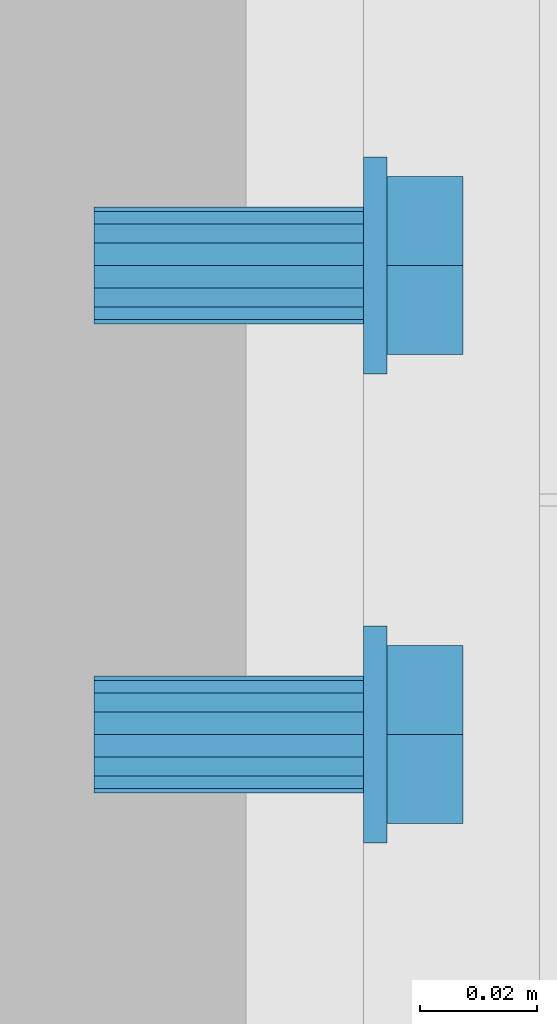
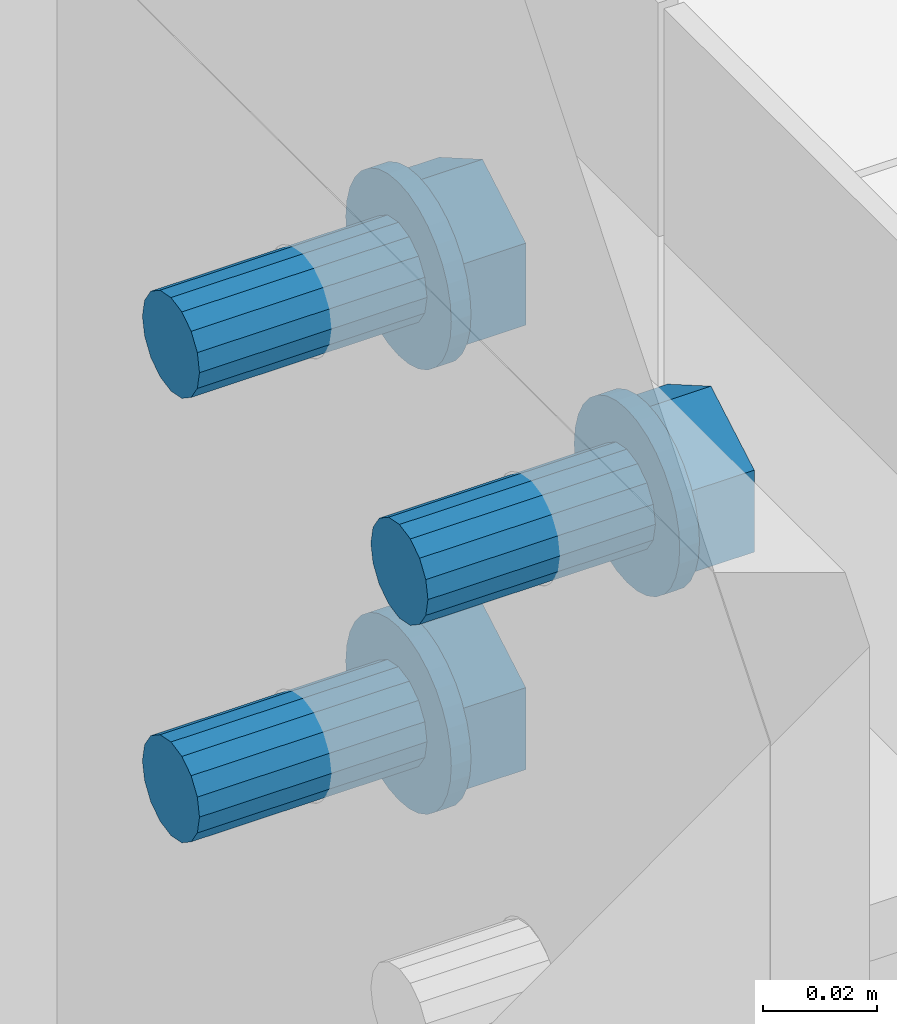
# One storey, part 311 of 410: 3 mechanical fasteners.
"""IFC2X3 building model written with IfcOpenShell, lengths in millimetres."""

from ifc_helpers import new_model, entity, si_unit, converted_unit, origin_with_axes, place, context, project, spatial, faceted_brep, element, save


model = new_model("IFC2X3")

# Units and contexts
model_context = context("Model", 3, precision=1e-09, world=origin_with_axes())
ifc_project = project(units=[si_unit("LENGTHUNIT", "METRE", prefix="MILLI"), si_unit("AREAUNIT", "SQUARE_METRE"), si_unit("VOLUMEUNIT", "CUBIC_METRE"), converted_unit("PLANEANGLEUNIT", "DEGREE", entity("IfcPlaneAngleMeasure", 0.01745329), si_unit("PLANEANGLEUNIT", "RADIAN"), dimensions=[0, 0, 0, 0, 0, 0, 0])], contexts=[model_context])

# Site, building, storey
site_placement = place(None, origin_with_axes())
site = spatial("IfcSite", under=ifc_project, at=site_placement, Name="mKR Teilneubau & Sanierung BA1 - Ostfildern", CompositionType="ELEMENT")
building_placement = place(site_placement, origin_with_axes())
building = spatial("IfcBuilding", under=site, at=building_placement, Name="Struktur 1", CompositionType="ELEMENT")
storey_placement = place(building_placement, origin_with_axes())
storey = spatial("IfcBuildingStorey", under=building, at=storey_placement, Name="Default Storey", CompositionType="ELEMENT", Elevation=0.0)

# Mechanical fasteners
mechanical_fastener_1_placement = place(None, origin_with_axes())
element("IfcMechanicalFastener", 1, at=mechanical_fastener_1_placement, inside=storey, ObjectType="-", NominalDiameter=20.0, NominalLength=50.0, context=model_context, shape_type="Brep", body=[
    faceted_brep([(1795.0, 16958.5, -2165.599999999), (1799.0, 16958.5, -2165.599999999), (1799.0, 16958.144527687, -2169.209170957), (1795.0, 16958.144527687, -2169.209170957), (1799.0, 16957.091771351, -2172.679643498), (1795.0, 16957.091771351, -2172.679643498), (1799.0, 16955.382187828, -2175.87804931), (1795.0, 16955.382187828, -2175.87804931), (1799.0, 16953.081475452, -2178.681475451), (1795.0, 16953.081475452, -2178.681475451), (1799.0, 16950.278049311, -2180.982187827), (1795.0, 16950.278049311, -2180.982187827), (1799.0, 16947.079643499, -2182.691771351), (1795.0, 16947.079643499, -2182.691771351), (1799.0, 16943.609170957, -2183.744527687), (1795.0, 16943.609170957, -2183.744527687), (1799.0, 16940.0, -2184.099999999), (1795.0, 16940.0, -2184.099999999), (1799.0, 16936.390829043, -2183.744527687), (1795.0, 16936.390829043, -2183.744527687), (1799.0, 16932.920356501, -2182.691771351), (1795.0, 16932.920356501, -2182.691771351), (1799.0, 16929.721950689, -2180.982187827), (1795.0, 16929.721950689, -2180.982187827), (1799.0, 16926.918524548, -2178.681475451), (1795.0, 16926.918524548, -2178.681475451), (1799.0, 16924.617812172, -2175.87804931), (1795.0, 16924.617812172, -2175.87804931), (1799.0, 16922.908228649, -2172.679643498), (1795.0, 16922.908228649, -2172.679643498), (1799.0, 16921.855472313, -2169.209170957), (1795.0, 16921.855472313, -2169.209170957), (1799.0, 16921.5, -2165.599999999), (1795.0, 16921.5, -2165.599999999), (1799.0, 16921.855472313, -2161.990829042), (1795.0, 16921.855472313, -2161.990829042), (1799.0, 16922.908228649, -2158.520356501), (1795.0, 16922.908228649, -2158.520356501), (1799.0, 16924.617812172, -2155.321950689), (1795.0, 16924.617812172, -2155.321950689), (1799.0, 16926.918524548, -2152.518524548), (1795.0, 16926.918524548, -2152.518524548), (1799.0, 16929.721950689, -2150.217812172), (1795.0, 16929.721950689, -2150.217812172), (1799.0, 16932.920356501, -2148.508228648), (1795.0, 16932.920356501, -2148.508228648), (1799.0, 16936.390829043, -2147.455472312), (1795.0, 16936.390829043, -2147.455472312), (1799.0, 16940.0, -2147.099999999), (1795.0, 16940.0, -2147.099999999), (1799.0, 16943.609170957, -2147.455472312), (1795.0, 16943.609170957, -2147.455472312), (1799.0, 16947.079643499, -2148.508228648), (1795.0, 16947.079643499, -2148.508228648), (1799.0, 16950.278049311, -2150.217812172), (1795.0, 16950.278049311, -2150.217812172), (1799.0, 16953.081475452, -2152.518524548), (1795.0, 16953.081475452, -2152.518524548), (1799.0, 16955.382187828, -2155.321950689), (1795.0, 16955.382187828, -2155.321950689), (1799.0, 16957.091771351, -2158.520356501), (1795.0, 16957.091771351, -2158.520356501), (1799.0, 16958.144527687, -2161.990829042), (1795.0, 16958.144527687, -2161.990829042)], [[[0, 1, 2, 3]], [[3, 2, 4, 5]], [[5, 4, 6, 7]], [[7, 6, 8, 9]], [[9, 8, 10, 11]], [[11, 10, 12, 13]], [[13, 12, 14, 15]], [[15, 14, 16, 17]], [[17, 16, 18, 19]], [[19, 18, 20, 21]], [[21, 20, 22, 23]], [[23, 22, 24, 25]], [[25, 24, 26, 27]], [[27, 26, 28, 29]], [[29, 28, 30, 31]], [[31, 30, 32, 33]], [[33, 32, 34, 35]], [[35, 34, 36, 37]], [[37, 36, 38, 39]], [[39, 38, 40, 41]], [[41, 40, 42, 43]], [[43, 42, 44, 45]], [[45, 44, 46, 47]], [[47, 46, 48, 49]], [[49, 48, 50, 51]], [[51, 50, 52, 53]], [[53, 52, 54, 55]], [[55, 54, 56, 57]], [[57, 56, 58, 59]], [[59, 58, 60, 61]], [[61, 60, 62, 63]], [[63, 62, 1, 0]], [[2, 1, 62, 60, 58, 56, 54, 52, 50, 48, 46, 44, 42, 40, 38, 36, 34, 32, 30, 28, 26, 24, 22, 20, 18, 16, 14, 12, 10, 8, 6, 4]], [[63, 0, 3, 5, 7, 9, 11, 13, 15, 17, 19, 21, 23, 25, 27, 29, 31, 33, 35, 37, 39, 41, 43, 45, 47, 49, 51, 53, 55, 57, 59, 61]]]),
    faceted_brep([(1812.0, 16924.831565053, -2174.357499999), (1799.0, 16924.831565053, -2174.357499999), (1799.0, 16940.0, -2183.114999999), (1812.0, 16940.0, -2183.114999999), (1799.0, 16955.168434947, -2174.357499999), (1812.0, 16955.168434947, -2174.357499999), (1799.0, 16955.168434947, -2156.842499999), (1812.0, 16955.168434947, -2156.842499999), (1799.0, 16940.0, -2148.084999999), (1812.0, 16940.0, -2148.084999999), (1799.0, 16924.831565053, -2156.842499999), (1812.0, 16924.831565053, -2156.842499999)], [[[0, 1, 2, 3]], [[3, 2, 4, 5]], [[5, 4, 6, 7]], [[7, 6, 8, 9]], [[9, 8, 10, 11]], [[11, 10, 1, 0]], [[3, 5, 7, 9, 11, 0]], [[2, 1, 10, 8, 6, 4]]]),
    faceted_brep([(1775.0, 16950.0, -2165.599999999), (1795.0, 16950.0, -2165.599999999), (1795.0, 16949.238795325, -2169.426834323), (1775.0, 16949.238795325, -2169.426834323), (1795.0, 16947.071067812, -2172.671067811), (1775.0, 16947.071067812, -2172.671067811), (1795.0, 16943.826834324, -2174.838795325), (1775.0, 16943.826834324, -2174.838795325), (1795.0, 16940.0, -2175.599999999), (1775.0, 16940.0, -2175.599999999), (1795.0, 16936.173165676, -2174.838795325), (1775.0, 16936.173165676, -2174.838795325), (1795.0, 16932.928932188, -2172.671067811), (1775.0, 16932.928932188, -2172.671067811), (1795.0, 16930.761204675, -2169.426834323), (1775.0, 16930.761204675, -2169.426834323), (1795.0, 16930.0, -2165.599999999), (1775.0, 16930.0, -2165.599999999), (1795.0, 16930.761204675, -2161.773165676), (1775.0, 16930.761204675, -2161.773165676), (1795.0, 16932.928932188, -2158.528932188), (1775.0, 16932.928932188, -2158.528932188), (1795.0, 16936.173165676, -2156.361204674), (1775.0, 16936.173165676, -2156.361204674), (1795.0, 16940.0, -2155.599999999), (1775.0, 16940.0, -2155.599999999), (1795.0, 16943.826834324, -2156.361204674), (1775.0, 16943.826834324, -2156.361204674), (1795.0, 16947.071067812, -2158.528932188), (1775.0, 16947.071067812, -2158.528932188), (1795.0, 16949.238795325, -2161.773165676), (1775.0, 16949.238795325, -2161.773165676)], [[[0, 1, 2, 3]], [[3, 2, 4, 5]], [[5, 4, 6, 7]], [[7, 6, 8, 9]], [[9, 8, 10, 11]], [[11, 10, 12, 13]], [[13, 12, 14, 15]], [[15, 14, 16, 17]], [[17, 16, 18, 19]], [[19, 18, 20, 21]], [[21, 20, 22, 23]], [[23, 22, 24, 25]], [[25, 24, 26, 27]], [[27, 26, 28, 29]], [[29, 28, 30, 31]], [[31, 30, 1, 0]], [[2, 1, 30, 28, 26, 24, 22, 20, 18, 16, 14, 12, 10, 8, 6, 4]], [[31, 0, 3, 5, 7, 9, 11, 13, 15, 17, 19, 21, 23, 25, 27, 29]]]),
    faceted_brep([(1749.0, 16950.0, -2165.599999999), (1775.0, 16950.0, -2165.599999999), (1775.0, 16949.238795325, -2169.426834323), (1749.0, 16949.238795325, -2169.426834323), (1775.0, 16947.071067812, -2172.671067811), (1749.0, 16947.071067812, -2172.671067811), (1775.0, 16943.826834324, -2174.838795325), (1749.0, 16943.826834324, -2174.838795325), (1775.0, 16940.0, -2175.599999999), (1749.0, 16940.0, -2175.599999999), (1775.0, 16936.173165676, -2174.838795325), (1749.0, 16936.173165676, -2174.838795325), (1775.0, 16932.928932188, -2172.671067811), (1749.0, 16932.928932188, -2172.671067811), (1775.0, 16930.761204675, -2169.426834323), (1749.0, 16930.761204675, -2169.426834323), (1775.0, 16930.0, -2165.599999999), (1749.0, 16930.0, -2165.599999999), (1775.0, 16930.761204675, -2161.773165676), (1749.0, 16930.761204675, -2161.773165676), (1775.0, 16932.928932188, -2158.528932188), (1749.0, 16932.928932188, -2158.528932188), (1775.0, 16936.173165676, -2156.361204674), (1749.0, 16936.173165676, -2156.361204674), (1775.0, 16940.0, -2155.599999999), (1749.0, 16940.0, -2155.599999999), (1775.0, 16943.826834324, -2156.361204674), (1749.0, 16943.826834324, -2156.361204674), (1775.0, 16947.071067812, -2158.528932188), (1749.0, 16947.071067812, -2158.528932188), (1775.0, 16949.238795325, -2161.773165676), (1749.0, 16949.238795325, -2161.773165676)], [[[0, 1, 2, 3]], [[3, 2, 4, 5]], [[5, 4, 6, 7]], [[7, 6, 8, 9]], [[9, 8, 10, 11]], [[11, 10, 12, 13]], [[13, 12, 14, 15]], [[15, 14, 16, 17]], [[17, 16, 18, 19]], [[19, 18, 20, 21]], [[21, 20, 22, 23]], [[23, 22, 24, 25]], [[25, 24, 26, 27]], [[27, 26, 28, 29]], [[29, 28, 30, 31]], [[31, 30, 1, 0]], [[2, 1, 30, 28, 26, 24, 22, 20, 18, 16, 14, 12, 10, 8, 6, 4]], [[31, 0, 3, 5, 7, 9, 11, 13, 15, 17, 19, 21, 23, 25, 27, 29]]]),
])
mechanical_fastener_2_placement = place(None, origin_with_axes())
element("IfcMechanicalFastener", 2, at=mechanical_fastener_2_placement, inside=storey, ObjectType="-", NominalDiameter=20.0, NominalLength=50.0, context=model_context, shape_type="Brep", body=[
    faceted_brep([(1795.0, 17038.5, -2165.599999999), (1799.0, 17038.5, -2165.599999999), (1799.0, 17038.144527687, -2169.209170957), (1795.0, 17038.144527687, -2169.209170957), (1799.0, 17037.091771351, -2172.679643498), (1795.0, 17037.091771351, -2172.679643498), (1799.0, 17035.382187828, -2175.87804931), (1795.0, 17035.382187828, -2175.87804931), (1799.0, 17033.081475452, -2178.681475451), (1795.0, 17033.081475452, -2178.681475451), (1799.0, 17030.278049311, -2180.982187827), (1795.0, 17030.278049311, -2180.982187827), (1799.0, 17027.079643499, -2182.691771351), (1795.0, 17027.079643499, -2182.691771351), (1799.0, 17023.609170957, -2183.744527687), (1795.0, 17023.609170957, -2183.744527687), (1799.0, 17020.0, -2184.099999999), (1795.0, 17020.0, -2184.099999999), (1799.0, 17016.390829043, -2183.744527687), (1795.0, 17016.390829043, -2183.744527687), (1799.0, 17012.920356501, -2182.691771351), (1795.0, 17012.920356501, -2182.691771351), (1799.0, 17009.721950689, -2180.982187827), (1795.0, 17009.721950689, -2180.982187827), (1799.0, 17006.918524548, -2178.681475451), (1795.0, 17006.918524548, -2178.681475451), (1799.0, 17004.617812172, -2175.87804931), (1795.0, 17004.617812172, -2175.87804931), (1799.0, 17002.908228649, -2172.679643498), (1795.0, 17002.908228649, -2172.679643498), (1799.0, 17001.855472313, -2169.209170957), (1795.0, 17001.855472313, -2169.209170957), (1799.0, 17001.5, -2165.599999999), (1795.0, 17001.5, -2165.599999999), (1799.0, 17001.855472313, -2161.990829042), (1795.0, 17001.855472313, -2161.990829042), (1799.0, 17002.908228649, -2158.520356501), (1795.0, 17002.908228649, -2158.520356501), (1799.0, 17004.617812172, -2155.321950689), (1795.0, 17004.617812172, -2155.321950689), (1799.0, 17006.918524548, -2152.518524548), (1795.0, 17006.918524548, -2152.518524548), (1799.0, 17009.721950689, -2150.217812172), (1795.0, 17009.721950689, -2150.217812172), (1799.0, 17012.920356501, -2148.508228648), (1795.0, 17012.920356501, -2148.508228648), (1799.0, 17016.390829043, -2147.455472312), (1795.0, 17016.390829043, -2147.455472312), (1799.0, 17020.0, -2147.099999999), (1795.0, 17020.0, -2147.099999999), (1799.0, 17023.609170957, -2147.455472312), (1795.0, 17023.609170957, -2147.455472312), (1799.0, 17027.079643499, -2148.508228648), (1795.0, 17027.079643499, -2148.508228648), (1799.0, 17030.278049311, -2150.217812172), (1795.0, 17030.278049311, -2150.217812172), (1799.0, 17033.081475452, -2152.518524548), (1795.0, 17033.081475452, -2152.518524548), (1799.0, 17035.382187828, -2155.321950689), (1795.0, 17035.382187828, -2155.321950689), (1799.0, 17037.091771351, -2158.520356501), (1795.0, 17037.091771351, -2158.520356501), (1799.0, 17038.144527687, -2161.990829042), (1795.0, 17038.144527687, -2161.990829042)], [[[0, 1, 2, 3]], [[3, 2, 4, 5]], [[5, 4, 6, 7]], [[7, 6, 8, 9]], [[9, 8, 10, 11]], [[11, 10, 12, 13]], [[13, 12, 14, 15]], [[15, 14, 16, 17]], [[17, 16, 18, 19]], [[19, 18, 20, 21]], [[21, 20, 22, 23]], [[23, 22, 24, 25]], [[25, 24, 26, 27]], [[27, 26, 28, 29]], [[29, 28, 30, 31]], [[31, 30, 32, 33]], [[33, 32, 34, 35]], [[35, 34, 36, 37]], [[37, 36, 38, 39]], [[39, 38, 40, 41]], [[41, 40, 42, 43]], [[43, 42, 44, 45]], [[45, 44, 46, 47]], [[47, 46, 48, 49]], [[49, 48, 50, 51]], [[51, 50, 52, 53]], [[53, 52, 54, 55]], [[55, 54, 56, 57]], [[57, 56, 58, 59]], [[59, 58, 60, 61]], [[61, 60, 62, 63]], [[63, 62, 1, 0]], [[2, 1, 62, 60, 58, 56, 54, 52, 50, 48, 46, 44, 42, 40, 38, 36, 34, 32, 30, 28, 26, 24, 22, 20, 18, 16, 14, 12, 10, 8, 6, 4]], [[63, 0, 3, 5, 7, 9, 11, 13, 15, 17, 19, 21, 23, 25, 27, 29, 31, 33, 35, 37, 39, 41, 43, 45, 47, 49, 51, 53, 55, 57, 59, 61]]]),
    faceted_brep([(1812.0, 17004.831565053, -2174.357499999), (1799.0, 17004.831565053, -2174.357499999), (1799.0, 17020.0, -2183.114999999), (1812.0, 17020.0, -2183.114999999), (1799.0, 17035.168434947, -2174.357499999), (1812.0, 17035.168434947, -2174.357499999), (1799.0, 17035.168434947, -2156.842499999), (1812.0, 17035.168434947, -2156.842499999), (1799.0, 17020.0, -2148.084999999), (1812.0, 17020.0, -2148.084999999), (1799.0, 17004.831565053, -2156.842499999), (1812.0, 17004.831565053, -2156.842499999)], [[[0, 1, 2, 3]], [[3, 2, 4, 5]], [[5, 4, 6, 7]], [[7, 6, 8, 9]], [[9, 8, 10, 11]], [[11, 10, 1, 0]], [[3, 5, 7, 9, 11, 0]], [[2, 1, 10, 8, 6, 4]]]),
    faceted_brep([(1775.0, 17030.0, -2165.599999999), (1795.0, 17030.0, -2165.599999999), (1795.0, 17029.238795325, -2169.426834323), (1775.0, 17029.238795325, -2169.426834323), (1795.0, 17027.071067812, -2172.671067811), (1775.0, 17027.071067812, -2172.671067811), (1795.0, 17023.826834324, -2174.838795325), (1775.0, 17023.826834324, -2174.838795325), (1795.0, 17020.0, -2175.599999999), (1775.0, 17020.0, -2175.599999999), (1795.0, 17016.173165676, -2174.838795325), (1775.0, 17016.173165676, -2174.838795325), (1795.0, 17012.928932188, -2172.671067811), (1775.0, 17012.928932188, -2172.671067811), (1795.0, 17010.761204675, -2169.426834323), (1775.0, 17010.761204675, -2169.426834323), (1795.0, 17010.0, -2165.599999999), (1775.0, 17010.0, -2165.599999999), (1795.0, 17010.761204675, -2161.773165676), (1775.0, 17010.761204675, -2161.773165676), (1795.0, 17012.928932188, -2158.528932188), (1775.0, 17012.928932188, -2158.528932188), (1795.0, 17016.173165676, -2156.361204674), (1775.0, 17016.173165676, -2156.361204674), (1795.0, 17020.0, -2155.599999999), (1775.0, 17020.0, -2155.599999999), (1795.0, 17023.826834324, -2156.361204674), (1775.0, 17023.826834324, -2156.361204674), (1795.0, 17027.071067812, -2158.528932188), (1775.0, 17027.071067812, -2158.528932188), (1795.0, 17029.238795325, -2161.773165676), (1775.0, 17029.238795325, -2161.773165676)], [[[0, 1, 2, 3]], [[3, 2, 4, 5]], [[5, 4, 6, 7]], [[7, 6, 8, 9]], [[9, 8, 10, 11]], [[11, 10, 12, 13]], [[13, 12, 14, 15]], [[15, 14, 16, 17]], [[17, 16, 18, 19]], [[19, 18, 20, 21]], [[21, 20, 22, 23]], [[23, 22, 24, 25]], [[25, 24, 26, 27]], [[27, 26, 28, 29]], [[29, 28, 30, 31]], [[31, 30, 1, 0]], [[2, 1, 30, 28, 26, 24, 22, 20, 18, 16, 14, 12, 10, 8, 6, 4]], [[31, 0, 3, 5, 7, 9, 11, 13, 15, 17, 19, 21, 23, 25, 27, 29]]]),
    faceted_brep([(1749.0, 17030.0, -2165.599999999), (1775.0, 17030.0, -2165.599999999), (1775.0, 17029.238795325, -2169.426834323), (1749.0, 17029.238795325, -2169.426834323), (1775.0, 17027.071067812, -2172.671067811), (1749.0, 17027.071067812, -2172.671067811), (1775.0, 17023.826834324, -2174.838795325), (1749.0, 17023.826834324, -2174.838795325), (1775.0, 17020.0, -2175.599999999), (1749.0, 17020.0, -2175.599999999), (1775.0, 17016.173165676, -2174.838795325), (1749.0, 17016.173165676, -2174.838795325), (1775.0, 17012.928932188, -2172.671067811), (1749.0, 17012.928932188, -2172.671067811), (1775.0, 17010.761204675, -2169.426834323), (1749.0, 17010.761204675, -2169.426834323), (1775.0, 17010.0, -2165.599999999), (1749.0, 17010.0, -2165.599999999), (1775.0, 17010.761204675, -2161.773165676), (1749.0, 17010.761204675, -2161.773165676), (1775.0, 17012.928932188, -2158.528932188), (1749.0, 17012.928932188, -2158.528932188), (1775.0, 17016.173165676, -2156.361204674), (1749.0, 17016.173165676, -2156.361204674), (1775.0, 17020.0, -2155.599999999), (1749.0, 17020.0, -2155.599999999), (1775.0, 17023.826834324, -2156.361204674), (1749.0, 17023.826834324, -2156.361204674), (1775.0, 17027.071067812, -2158.528932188), (1749.0, 17027.071067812, -2158.528932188), (1775.0, 17029.238795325, -2161.773165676), (1749.0, 17029.238795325, -2161.773165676)], [[[0, 1, 2, 3]], [[3, 2, 4, 5]], [[5, 4, 6, 7]], [[7, 6, 8, 9]], [[9, 8, 10, 11]], [[11, 10, 12, 13]], [[13, 12, 14, 15]], [[15, 14, 16, 17]], [[17, 16, 18, 19]], [[19, 18, 20, 21]], [[21, 20, 22, 23]], [[23, 22, 24, 25]], [[25, 24, 26, 27]], [[27, 26, 28, 29]], [[29, 28, 30, 31]], [[31, 30, 1, 0]], [[2, 1, 30, 28, 26, 24, 22, 20, 18, 16, 14, 12, 10, 8, 6, 4]], [[31, 0, 3, 5, 7, 9, 11, 13, 15, 17, 19, 21, 23, 25, 27, 29]]]),
])
mechanical_fastener_3_placement = place(None, origin_with_axes())
element("IfcMechanicalFastener", 3, at=mechanical_fastener_3_placement, inside=storey, ObjectType="-", NominalDiameter=20.0, NominalLength=50.0, context=model_context, shape_type="Brep", body=[
    faceted_brep([(1795.0, 17038.5, -2260.599999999), (1799.0, 17038.5, -2260.599999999), (1799.0, 17038.144527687, -2264.209170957), (1795.0, 17038.144527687, -2264.209170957), (1799.0, 17037.091771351, -2267.679643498), (1795.0, 17037.091771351, -2267.679643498), (1799.0, 17035.382187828, -2270.87804931), (1795.0, 17035.382187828, -2270.87804931), (1799.0, 17033.081475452, -2273.681475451), (1795.0, 17033.081475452, -2273.681475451), (1799.0, 17030.278049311, -2275.982187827), (1795.0, 17030.278049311, -2275.982187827), (1799.0, 17027.079643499, -2277.691771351), (1795.0, 17027.079643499, -2277.691771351), (1799.0, 17023.609170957, -2278.744527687), (1795.0, 17023.609170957, -2278.744527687), (1799.0, 17020.0, -2279.099999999), (1795.0, 17020.0, -2279.099999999), (1799.0, 17016.390829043, -2278.744527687), (1795.0, 17016.390829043, -2278.744527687), (1799.0, 17012.920356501, -2277.691771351), (1795.0, 17012.920356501, -2277.691771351), (1799.0, 17009.721950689, -2275.982187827), (1795.0, 17009.721950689, -2275.982187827), (1799.0, 17006.918524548, -2273.681475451), (1795.0, 17006.918524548, -2273.681475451), (1799.0, 17004.617812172, -2270.87804931), (1795.0, 17004.617812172, -2270.87804931), (1799.0, 17002.908228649, -2267.679643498), (1795.0, 17002.908228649, -2267.679643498), (1799.0, 17001.855472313, -2264.209170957), (1795.0, 17001.855472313, -2264.209170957), (1799.0, 17001.5, -2260.599999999), (1795.0, 17001.5, -2260.599999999), (1799.0, 17001.855472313, -2256.990829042), (1795.0, 17001.855472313, -2256.990829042), (1799.0, 17002.908228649, -2253.520356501), (1795.0, 17002.908228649, -2253.520356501), (1799.0, 17004.617812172, -2250.321950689), (1795.0, 17004.617812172, -2250.321950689), (1799.0, 17006.918524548, -2247.518524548), (1795.0, 17006.918524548, -2247.518524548), (1799.0, 17009.721950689, -2245.217812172), (1795.0, 17009.721950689, -2245.217812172), (1799.0, 17012.920356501, -2243.508228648), (1795.0, 17012.920356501, -2243.508228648), (1799.0, 17016.390829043, -2242.455472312), (1795.0, 17016.390829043, -2242.455472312), (1799.0, 17020.0, -2242.099999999), (1795.0, 17020.0, -2242.099999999), (1799.0, 17023.609170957, -2242.455472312), (1795.0, 17023.609170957, -2242.455472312), (1799.0, 17027.079643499, -2243.508228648), (1795.0, 17027.079643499, -2243.508228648), (1799.0, 17030.278049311, -2245.217812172), (1795.0, 17030.278049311, -2245.217812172), (1799.0, 17033.081475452, -2247.518524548), (1795.0, 17033.081475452, -2247.518524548), (1799.0, 17035.382187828, -2250.321950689), (1795.0, 17035.382187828, -2250.321950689), (1799.0, 17037.091771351, -2253.520356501), (1795.0, 17037.091771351, -2253.520356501), (1799.0, 17038.144527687, -2256.990829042), (1795.0, 17038.144527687, -2256.990829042)], [[[0, 1, 2, 3]], [[3, 2, 4, 5]], [[5, 4, 6, 7]], [[7, 6, 8, 9]], [[9, 8, 10, 11]], [[11, 10, 12, 13]], [[13, 12, 14, 15]], [[15, 14, 16, 17]], [[17, 16, 18, 19]], [[19, 18, 20, 21]], [[21, 20, 22, 23]], [[23, 22, 24, 25]], [[25, 24, 26, 27]], [[27, 26, 28, 29]], [[29, 28, 30, 31]], [[31, 30, 32, 33]], [[33, 32, 34, 35]], [[35, 34, 36, 37]], [[37, 36, 38, 39]], [[39, 38, 40, 41]], [[41, 40, 42, 43]], [[43, 42, 44, 45]], [[45, 44, 46, 47]], [[47, 46, 48, 49]], [[49, 48, 50, 51]], [[51, 50, 52, 53]], [[53, 52, 54, 55]], [[55, 54, 56, 57]], [[57, 56, 58, 59]], [[59, 58, 60, 61]], [[61, 60, 62, 63]], [[63, 62, 1, 0]], [[2, 1, 62, 60, 58, 56, 54, 52, 50, 48, 46, 44, 42, 40, 38, 36, 34, 32, 30, 28, 26, 24, 22, 20, 18, 16, 14, 12, 10, 8, 6, 4]], [[63, 0, 3, 5, 7, 9, 11, 13, 15, 17, 19, 21, 23, 25, 27, 29, 31, 33, 35, 37, 39, 41, 43, 45, 47, 49, 51, 53, 55, 57, 59, 61]]]),
    faceted_brep([(1812.0, 17004.831565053, -2269.357499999), (1799.0, 17004.831565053, -2269.357499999), (1799.0, 17020.0, -2278.114999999), (1812.0, 17020.0, -2278.114999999), (1799.0, 17035.168434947, -2269.357499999), (1812.0, 17035.168434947, -2269.357499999), (1799.0, 17035.168434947, -2251.842499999), (1812.0, 17035.168434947, -2251.842499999), (1799.0, 17020.0, -2243.084999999), (1812.0, 17020.0, -2243.084999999), (1799.0, 17004.831565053, -2251.842499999), (1812.0, 17004.831565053, -2251.842499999)], [[[0, 1, 2, 3]], [[3, 2, 4, 5]], [[5, 4, 6, 7]], [[7, 6, 8, 9]], [[9, 8, 10, 11]], [[11, 10, 1, 0]], [[3, 5, 7, 9, 11, 0]], [[2, 1, 10, 8, 6, 4]]]),
    faceted_brep([(1775.0, 17030.0, -2260.599999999), (1795.0, 17030.0, -2260.599999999), (1795.0, 17029.238795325, -2264.426834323), (1775.0, 17029.238795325, -2264.426834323), (1795.0, 17027.071067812, -2267.671067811), (1775.0, 17027.071067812, -2267.671067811), (1795.0, 17023.826834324, -2269.838795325), (1775.0, 17023.826834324, -2269.838795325), (1795.0, 17020.0, -2270.599999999), (1775.0, 17020.0, -2270.599999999), (1795.0, 17016.173165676, -2269.838795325), (1775.0, 17016.173165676, -2269.838795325), (1795.0, 17012.928932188, -2267.671067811), (1775.0, 17012.928932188, -2267.671067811), (1795.0, 17010.761204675, -2264.426834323), (1775.0, 17010.761204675, -2264.426834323), (1795.0, 17010.0, -2260.599999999), (1775.0, 17010.0, -2260.599999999), (1795.0, 17010.761204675, -2256.773165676), (1775.0, 17010.761204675, -2256.773165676), (1795.0, 17012.928932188, -2253.528932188), (1775.0, 17012.928932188, -2253.528932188), (1795.0, 17016.173165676, -2251.361204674), (1775.0, 17016.173165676, -2251.361204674), (1795.0, 17020.0, -2250.599999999), (1775.0, 17020.0, -2250.599999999), (1795.0, 17023.826834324, -2251.361204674), (1775.0, 17023.826834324, -2251.361204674), (1795.0, 17027.071067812, -2253.528932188), (1775.0, 17027.071067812, -2253.528932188), (1795.0, 17029.238795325, -2256.773165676), (1775.0, 17029.238795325, -2256.773165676)], [[[0, 1, 2, 3]], [[3, 2, 4, 5]], [[5, 4, 6, 7]], [[7, 6, 8, 9]], [[9, 8, 10, 11]], [[11, 10, 12, 13]], [[13, 12, 14, 15]], [[15, 14, 16, 17]], [[17, 16, 18, 19]], [[19, 18, 20, 21]], [[21, 20, 22, 23]], [[23, 22, 24, 25]], [[25, 24, 26, 27]], [[27, 26, 28, 29]], [[29, 28, 30, 31]], [[31, 30, 1, 0]], [[2, 1, 30, 28, 26, 24, 22, 20, 18, 16, 14, 12, 10, 8, 6, 4]], [[31, 0, 3, 5, 7, 9, 11, 13, 15, 17, 19, 21, 23, 25, 27, 29]]]),
    faceted_brep([(1749.0, 17030.0, -2260.599999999), (1775.0, 17030.0, -2260.599999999), (1775.0, 17029.238795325, -2264.426834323), (1749.0, 17029.238795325, -2264.426834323), (1775.0, 17027.071067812, -2267.671067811), (1749.0, 17027.071067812, -2267.671067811), (1775.0, 17023.826834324, -2269.838795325), (1749.0, 17023.826834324, -2269.838795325), (1775.0, 17020.0, -2270.599999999), (1749.0, 17020.0, -2270.599999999), (1775.0, 17016.173165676, -2269.838795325), (1749.0, 17016.173165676, -2269.838795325), (1775.0, 17012.928932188, -2267.671067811), (1749.0, 17012.928932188, -2267.671067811), (1775.0, 17010.761204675, -2264.426834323), (1749.0, 17010.761204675, -2264.426834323), (1775.0, 17010.0, -2260.599999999), (1749.0, 17010.0, -2260.599999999), (1775.0, 17010.761204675, -2256.773165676), (1749.0, 17010.761204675, -2256.773165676), (1775.0, 17012.928932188, -2253.528932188), (1749.0, 17012.928932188, -2253.528932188), (1775.0, 17016.173165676, -2251.361204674), (1749.0, 17016.173165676, -2251.361204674), (1775.0, 17020.0, -2250.599999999), (1749.0, 17020.0, -2250.599999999), (1775.0, 17023.826834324, -2251.361204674), (1749.0, 17023.826834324, -2251.361204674), (1775.0, 17027.071067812, -2253.528932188), (1749.0, 17027.071067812, -2253.528932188), (1775.0, 17029.238795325, -2256.773165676), (1749.0, 17029.238795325, -2256.773165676)], [[[0, 1, 2, 3]], [[3, 2, 4, 5]], [[5, 4, 6, 7]], [[7, 6, 8, 9]], [[9, 8, 10, 11]], [[11, 10, 12, 13]], [[13, 12, 14, 15]], [[15, 14, 16, 17]], [[17, 16, 18, 19]], [[19, 18, 20, 21]], [[21, 20, 22, 23]], [[23, 22, 24, 25]], [[25, 24, 26, 27]], [[27, 26, 28, 29]], [[29, 28, 30, 31]], [[31, 30, 1, 0]], [[2, 1, 30, 28, 26, 24, 22, 20, 18, 16, 14, 12, 10, 8, 6, 4]], [[31, 0, 3, 5, 7, 9, 11, 13, 15, 17, 19, 21, 23, 25, 27, 29]]]),
])

save(model, "model.ifc")
